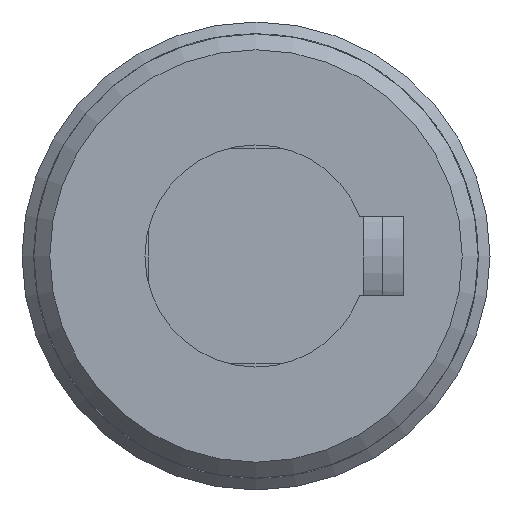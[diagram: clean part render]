
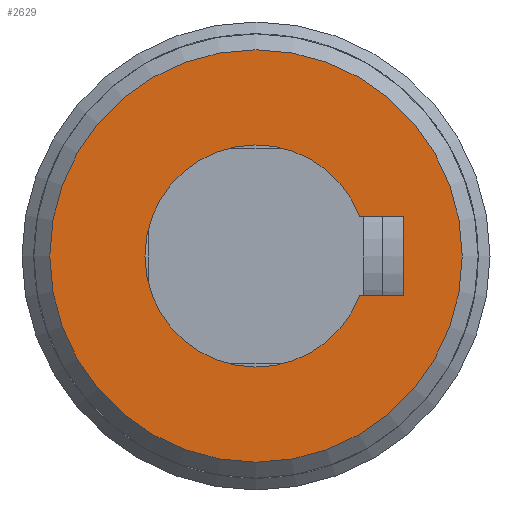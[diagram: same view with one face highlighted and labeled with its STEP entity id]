
A CAD part, left-side view. The second image highlights one B-rep face of the part: STEP entity #2629.
In plain terms, the highlighted planar face has unit normal (-1, 0, 0) as drawn and (0, -1, 0) by its records, which use the part's own axes.
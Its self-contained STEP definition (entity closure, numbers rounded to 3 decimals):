
#286=LINE('',#4829,#439);
#291=LINE('',#4846,#444);
#292=LINE('',#4859,#445);
#439=VECTOR('',#3569,2.762);
#444=VECTOR('',#3580,2.762);
#445=VECTOR('',#3583,5.);
#525=PLANE('',#2907);
#584=FACE_BOUND('',#930,.T.);
#725=FACE_OUTER_BOUND('',#929,.T.);
#929=EDGE_LOOP('',(#2331));
#930=EDGE_LOOP('',(#2332,#2333,#2334,#2335));
#1068=CIRCLE('',#2895,7.);
#1073=CIRCLE('',#2905,13.);
#1301=VERTEX_POINT('',#4818);
#1302=VERTEX_POINT('',#4820);
#1304=VERTEX_POINT('',#4828);
#1310=VERTEX_POINT('',#4844);
#1312=VERTEX_POINT('',#4865);
#1643=EDGE_CURVE('',#1302,#1301,#1068,.T.);
#1646=EDGE_CURVE('',#1304,#1302,#286,.T.);
#1654=EDGE_CURVE('',#1301,#1310,#291,.T.);
#1656=EDGE_CURVE('',#1310,#1304,#292,.T.);
#1659=EDGE_CURVE('',#1312,#1312,#1073,.T.);
#2331=ORIENTED_EDGE('',*,*,#1659,.F.);
#2332=ORIENTED_EDGE('',*,*,#1654,.T.);
#2333=ORIENTED_EDGE('',*,*,#1656,.T.);
#2334=ORIENTED_EDGE('',*,*,#1646,.T.);
#2335=ORIENTED_EDGE('',*,*,#1643,.T.);
#2629=ADVANCED_FACE('',(#725,#584),#525,.F.);
#2895=AXIS2_PLACEMENT_3D('',#4821,#3564,#3565);
#2905=AXIS2_PLACEMENT_3D('',#4866,#3592,#3593);
#2907=AXIS2_PLACEMENT_3D('',#5042,#3600,#3601);
#3564=DIRECTION('center_axis',(0.,1.,0.));
#3565=DIRECTION('ref_axis',(-0.357,0.,0.934));
#3569=DIRECTION('',(0.,0.,1.));
#3580=DIRECTION('',(0.,0.,-1.));
#3583=DIRECTION('',(-1.,0.,0.));
#3592=DIRECTION('center_axis',(0.,1.,0.));
#3593=DIRECTION('ref_axis',(1.,0.,0.));
#3600=DIRECTION('center_axis',(0.,1.,0.));
#3601=DIRECTION('ref_axis',(0.,0.,1.));
#4818=CARTESIAN_POINT('',(2.5,-36.5,-6.538));
#4820=CARTESIAN_POINT('',(-2.5,-36.5,-6.538));
#4821=CARTESIAN_POINT('Origin',(0.,-36.5,0.));
#4828=CARTESIAN_POINT('',(-2.5,-36.5,-9.3));
#4829=CARTESIAN_POINT('',(-2.5,-36.5,-4.65));
#4844=CARTESIAN_POINT('',(2.5,-36.5,-9.3));
#4846=CARTESIAN_POINT('',(2.5,-36.5,-3.269));
#4859=CARTESIAN_POINT('',(1.25,-36.5,-9.3));
#4865=CARTESIAN_POINT('',(-13.,-36.5,0.));
#4866=CARTESIAN_POINT('Origin',(0.,-36.5,0.));
#5042=CARTESIAN_POINT('Origin',(0.,-36.5,0.));
